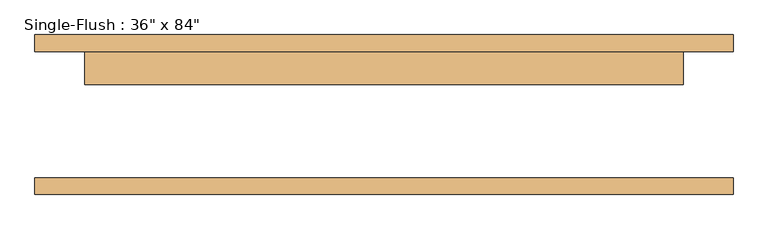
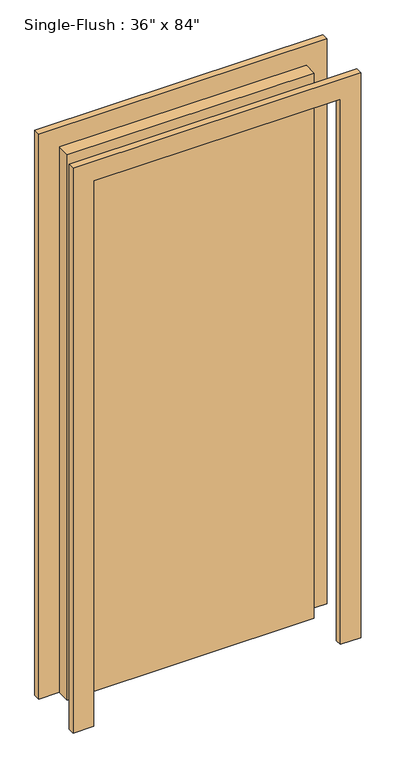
"""IFC4 building model written with IfcOpenShell, lengths in millimetres: door geometry."""

from ifc_helpers import new_model, si_unit, frame, origin, origin_with_axes, place, context, project, spatial, polyline, outline, extrude, source, transform, mapped, element, save


def door_d6d25fb4(model_context):
    return source(origin(), model_context, "Body", "SweptSolid", [
        extrude(outline(polyline([(2209.8, -533.4), (0.0, -533.4), (0.0, -457.2), (2133.6, -457.2), (2133.6, 457.2), (0.0, 457.2), (0.0, 533.4), (2209.8, 533.4), (2209.8, -533.4)])), frame((0.0, 96.8375, 0.0), z_axis=(0.0, 1.0, 0.0), x_axis=(0.0, 0.0, 1.0)), (0.0, 0.0, 1.0), 25.4),
        extrude(outline(polyline([(2209.8, 533.4), (2209.8, -533.4), (0.0, -533.4), (0.0, -457.2), (2133.6, -457.2), (2133.6, 457.2), (0.0, 457.2), (0.0, 533.4), (2209.8, 533.4)])), frame((0.0, -122.2375, 0.0), z_axis=(0.0, 1.0, 0.0), x_axis=(0.0, 0.0, 1.0)), (0.0, 0.0, 1.0), 25.4),
        extrude(outline(polyline([(457.2, 46.0375), (-457.2, 46.0375), (-457.2, 96.8375), (457.2, 96.8375), (457.2, 46.0375)])), origin_with_axes(), (0.0, 0.0, 1.0), 2133.6),
    ])


if __name__ == "__main__":
    model = new_model("IFC4")
    model_context = context("Model", 3, world=origin())
    ifc_project = project(units=[si_unit("LENGTHUNIT", "METRE", prefix="MILLI")], contexts=[model_context])
    site = spatial("IfcSite", under=ifc_project)
    building = spatial("IfcBuilding", under=site)
    placement = place(None, origin())
    door_shape = door_d6d25fb4(model_context)
    element("IfcDoor", 1, ObjectType="Single-Flush : 36\" x 84\"", at=placement, inside=building, context=model_context, shape_type="MappedRepresentation", body=[
        mapped(door_shape, transform((0.0, 0.0, 0.0), x_axis=(1.0, 0.0, 0.0), y_axis=(0.0, 1.0, 0.0), z_axis=(0.0, 0.0, 1.0))),
    ])
    save(model, "model.ifc")
